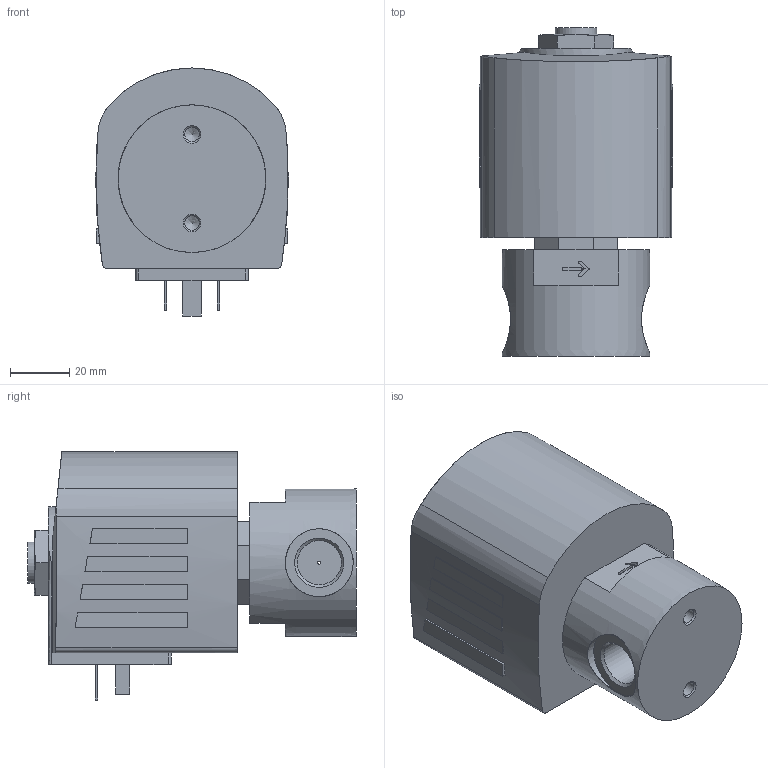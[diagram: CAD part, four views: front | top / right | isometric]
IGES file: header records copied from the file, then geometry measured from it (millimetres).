
Start section: Data from Parasolid IGES Translator 26.0.171, Copyright(c) 2006 Siemens PLM Software. All Rights Reserved.
Global section: file name: 6240-371402-2_2-way_solenoid_valve__pilot-controlled.igs; native system: By Siemens PLM Incorporated; preprocessor: XPlus GENERIC/IGES 26.0.171; author: Noname; organization: Noname; date: 20240510.115452; units: millimetre
Bounding box: 65.62 x 111.2 x 84 mm (x, y, z)
Surface area: 36533.6 mm2 (no closed solid volume)
Topology: 0 solids, 0 shells, 148 faces, 732 edges, 718 vertices
Faces by surface type: extrusion 102, revolution 46
